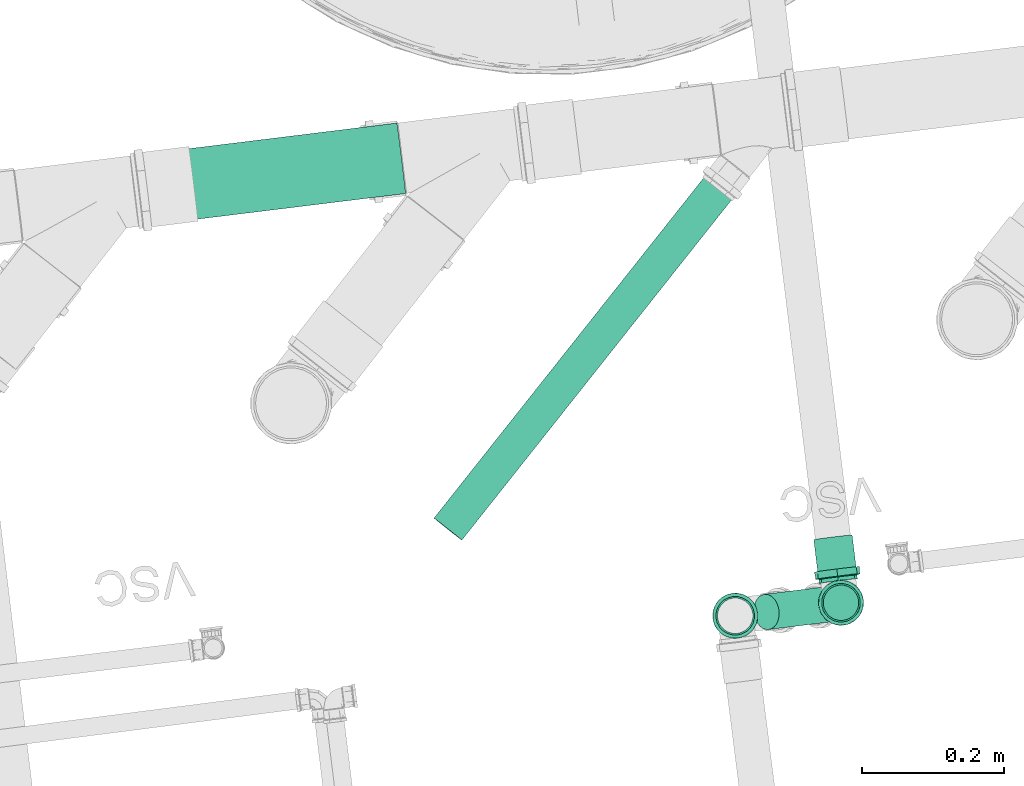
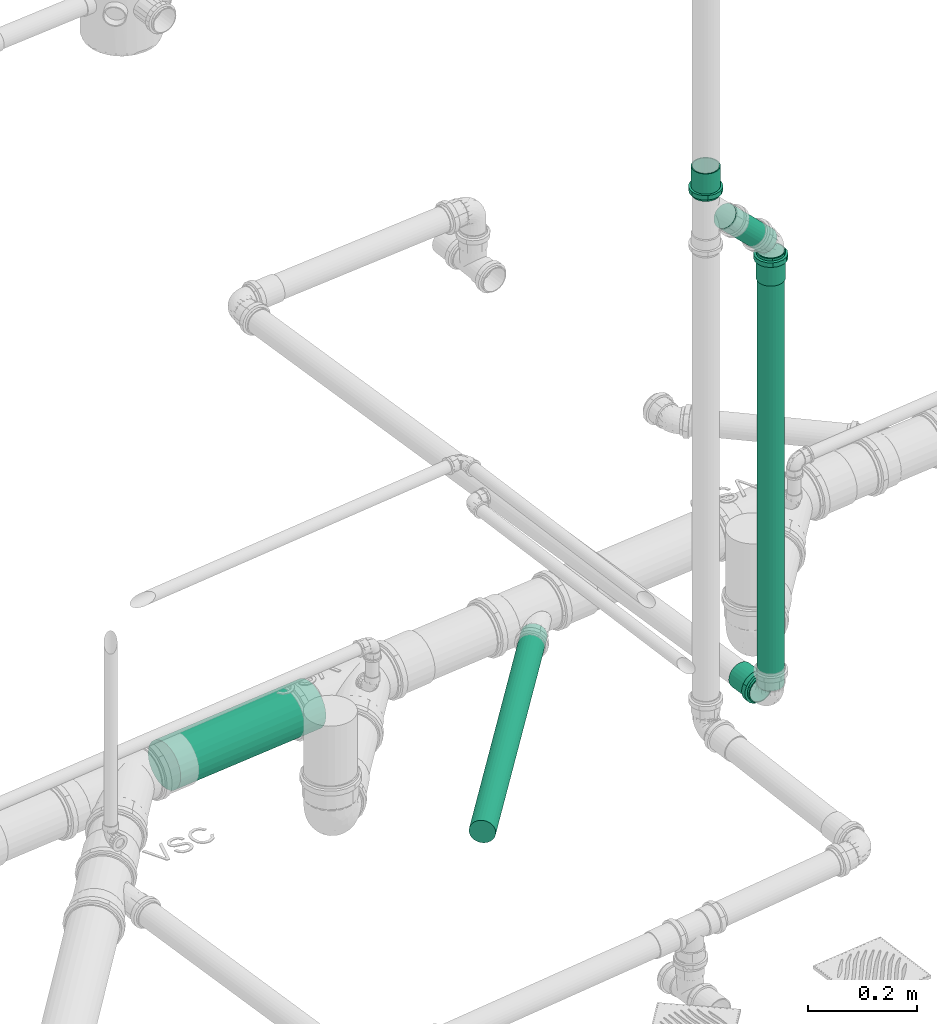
# One storey, part 21 of 97: 4 flow segments, 3 flow fittings.
"""IFC2X3 building model written with IfcOpenShell, lengths in centimetres."""

from ifc_helpers import new_model, entity, si_unit, converted_unit, derived_unit, direction, frame, frame_2d, origin, origin_2d_with_axis, place, context, subcontext, project, spatial, circle, extrude, faceted_brep, source, transform, mapped, material, type_object, type_shapes, element, save


model = new_model("IFC2X3")

# Units and contexts
model_context = context("Model", 3, precision=0.001, world=origin(), true_north=direction((6.12303176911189e-17, 1.0)))
body_context = subcontext(model_context, "Body", "Model", "MODEL_VIEW")
ifc_project = project(units=[si_unit("LENGTHUNIT", "METRE", prefix="CENTI"), si_unit("AREAUNIT", "SQUARE_METRE"), si_unit("VOLUMEUNIT", "CUBIC_METRE"), converted_unit("PLANEANGLEUNIT", "DEGREE", entity("IfcRatioMeasure", 0.0174532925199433), si_unit("PLANEANGLEUNIT", "RADIAN"), dimensions=[0, 0, 0, 0, 0, 0, 0]), si_unit("MASSUNIT", "GRAM", prefix="KILO"), derived_unit("MASSDENSITYUNIT", [(si_unit("MASSUNIT", "GRAM", prefix="KILO"), 1), (si_unit("LENGTHUNIT", "METRE"), -3)]), derived_unit("MOMENTOFINERTIAUNIT", [(si_unit("LENGTHUNIT", "METRE"), 4)]), si_unit("TIMEUNIT", "SECOND"), si_unit("FREQUENCYUNIT", "HERTZ"), si_unit("THERMODYNAMICTEMPERATUREUNIT", "DEGREE_CELSIUS"), derived_unit("THERMALTRANSMITTANCEUNIT", [(si_unit("MASSUNIT", "GRAM", prefix="KILO"), 1), (si_unit("THERMODYNAMICTEMPERATUREUNIT", "KELVIN"), -1), (si_unit("TIMEUNIT", "SECOND"), -3)]), derived_unit("VOLUMETRICFLOWRATEUNIT", [(si_unit("LENGTHUNIT", "METRE"), 3), (si_unit("TIMEUNIT", "SECOND"), -1)]), si_unit("ELECTRICCURRENTUNIT", "AMPERE"), si_unit("ELECTRICVOLTAGEUNIT", "VOLT"), si_unit("POWERUNIT", "WATT"), si_unit("FORCEUNIT", "NEWTON", prefix="KILO"), si_unit("ILLUMINANCEUNIT", "LUX"), si_unit("LUMINOUSFLUXUNIT", "LUMEN"), si_unit("LUMINOUSINTENSITYUNIT", "CANDELA"), derived_unit("USERDEFINED", [(si_unit("MASSUNIT", "GRAM", prefix="KILO"), -1), (si_unit("LENGTHUNIT", "METRE"), -2), (si_unit("TIMEUNIT", "SECOND"), 3), (si_unit("LUMINOUSFLUXUNIT", "LUMEN"), 1)]), derived_unit("LINEARVELOCITYUNIT", [(si_unit("LENGTHUNIT", "METRE"), 1), (si_unit("TIMEUNIT", "SECOND"), -1)]), si_unit("PRESSUREUNIT", "PASCAL"), derived_unit("USERDEFINED", [(si_unit("LENGTHUNIT", "METRE"), -2), (si_unit("MASSUNIT", "GRAM", prefix="KILO"), 1), (si_unit("TIMEUNIT", "SECOND"), -2)]), derived_unit("LINEARFORCEUNIT", [(si_unit("MASSUNIT", "GRAM", prefix="KILO"), 1), (si_unit("LENGTHUNIT", "METRE"), 1), (si_unit("TIMEUNIT", "SECOND"), -2), (si_unit("LENGTHUNIT", "METRE"), -1)]), derived_unit("PLANARFORCEUNIT", [(si_unit("MASSUNIT", "GRAM", prefix="KILO"), 1), (si_unit("LENGTHUNIT", "METRE"), 1), (si_unit("TIMEUNIT", "SECOND"), -2), (si_unit("LENGTHUNIT", "METRE"), -2)])], contexts=[model_context])

# Site, building, storey
site_placement = place(None, origin())
site = spatial("IfcSite", under=ifc_project, at=site_placement, Name="Default", CompositionType="ELEMENT")
building_placement = place(site_placement, origin())
building = spatial("IfcBuilding", under=site, at=building_placement, Name="HIDROSSANITÁRIO", CompositionType="ELEMENT")
storey_placement = place(building_placement, frame((0.0, 0.0, -260.0)))
storey = spatial("IfcBuildingStorey", under=building, at=storey_placement, Name="TÉRREO-HID", CompositionType="ELEMENT", Elevation=-260.0)

# Flow segments
pipe_segment_type = type_object("IfcPipeSegmentType", Name="Tipos de tubos:Tubo - Esgoto - Série Normal", PredefinedType="NOTDEFINED")
flow_segment_1_placement = place(storey_placement, origin())
element("IfcFlowSegment", 1, at=flow_segment_1_placement, inside=storey, type_object=pipe_segment_type, Name="Tipos de tubos:Tubo - Esgoto - Série Normal", ObjectType="Tipos de tubos:Tubo - Esgoto - Série Normal", context=body_context, shape_type="SweptSolid", body=[
    extrude(circle(Radius=5.0, at=origin_2d_with_axis()), frame((-1676.23149618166, 2964.60494548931, -34.7716445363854), z_axis=(-0.992461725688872, -0.122146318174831, 0.00999999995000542), x_axis=(0.122152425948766, -0.992511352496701, 0.0)), (0.0, 0.0, 1.0), 33.5116572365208),
])
flow_segment_2_placement = place(storey_placement, origin())
element("IfcFlowSegment", 2, at=flow_segment_2_placement, inside=storey, type_object=pipe_segment_type, Name="Tipos de tubos:Tubo - Esgoto - Série Normal", ObjectType="Tipos de tubos:Tubo - Esgoto - Série Normal", context=body_context, shape_type="SweptSolid", body=[
    extrude(circle(Radius=2.5, at=frame_2d((4.38792542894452e-13, -2.52427760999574e-15), x_axis=(1.0, 0.0))), frame((-1629.24835275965, 2963.39716830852, -34.9552157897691), z_axis=(-0.621166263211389, -0.783581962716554, 0.012319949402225), x_axis=(0.783641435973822, -0.621213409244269, 0.0)), (0.0, 0.0, 1.0), 65.0630446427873),
])
flow_segment_3_placement = place(storey_placement, origin())
element("IfcFlowSegment", 3, at=flow_segment_3_placement, inside=storey, type_object=pipe_segment_type, Name="Tipos de tubos:Tubo - Esgoto - Série Normal", ObjectType="Tipos de tubos:Tubo - Esgoto - Série Normal", context=body_context, shape_type="SweptSolid", body=[
    extrude(circle(Radius=2.5, at=frame_2d((1.87847503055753e-31, -1.91425672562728e-14), x_axis=(1.0, 0.0))), frame((-1624.8208189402, 2900.76838637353, 95.5593694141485), z_axis=(0.701811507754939, 0.0863748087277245, -0.707106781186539), x_axis=(0.122152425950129, -0.992511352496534, 0.0)), (0.0, 0.0, 1.0), 13.336248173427),
])
flow_segment_4_placement = place(storey_placement, origin())
element("IfcFlowSegment", 4, at=flow_segment_4_placement, inside=storey, type_object=pipe_segment_type, Name="Tipos de tubos:Tubo - Esgoto - Série Normal", ObjectType="Tipos de tubos:Tubo - Esgoto - Série Normal", context=body_context, shape_type="SweptSolid", body=[
    extrude(circle(Radius=2.5, at=origin_2d_with_axis()), frame((-1614.34052492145, 2902.05823896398, -13.9318647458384), z_axis=(0.0, 0.0, 1.0), x_axis=(-1.0, 0.0, 0.0)), (0.0, 0.0, 1.0), 97.3349094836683),
])

# Flow fittings
ifc_material = material(Name="PVC Branco")
pipe_fitting_type = type_object("IfcPipeFittingType", Name="Luva Simples para Conexão - Serie Normal - Esgoto - MEP - Tigre:Standard", PredefinedType="NOTDEFINED", material=ifc_material)
shared_shape = source(origin(), body_context, "Body", "Brep", [
    faceted_brep([(1.65999999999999, 1.59, -2.75396078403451), (1.65999999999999, 2.24859956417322, -2.24859956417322), (1.65999999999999, 1.35999999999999, -2.35558909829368), (1.65999999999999, 0.703987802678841, -2.62731824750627), (1.65999999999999, 0.82304456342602, -3.07164412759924), (1.65999999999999, 1.9233304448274, -1.92333044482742), (1.65999999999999, 2.75396078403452, -1.59), (1.65999999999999, 2.35558909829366, -1.36000000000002), (1.65999999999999, 2.62731824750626, -0.703987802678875), (1.65999999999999, 3.07164412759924, -0.823044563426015), (1.65999999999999, 2.72, 0.0), (1.65999999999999, 3.18, 0.0), (1.65999999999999, 2.62731824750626, 0.703987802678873), (1.65999999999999, 3.07164412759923, 0.823044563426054), (1.65999999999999, 2.35558909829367, 1.36000000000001), (1.65999999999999, 2.7539607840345, 1.59000000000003), (1.65999999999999, 1.9233304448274, 1.92333044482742), (1.65999999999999, 2.24859956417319, 2.24859956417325), (1.65999999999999, 1.35999999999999, 2.35558909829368), (1.65999999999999, 1.58999999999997, 2.75396078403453), (1.65999999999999, 0.703987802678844, 2.62731824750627), (1.65999999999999, 0.823044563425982, 3.07164412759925), (1.65999999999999, 0.0, 2.72), (1.65999999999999, 0.0, 3.18), (1.65999999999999, -0.703987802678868, 2.62731824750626), (1.65999999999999, -0.823044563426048, 3.07164412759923), (1.65999999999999, -1.36000000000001, 2.35558909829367), (1.65999999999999, -1.59000000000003, 2.7539607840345), (1.65999999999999, -1.92333044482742, 1.9233304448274), (1.65999999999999, -2.24859956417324, 2.2485995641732), (1.65999999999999, -2.35558909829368, 1.35999999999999), (1.65999999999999, -2.75396078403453, 1.58999999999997), (1.65999999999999, -3.07164412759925, 0.823044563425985), (1.65999999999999, -2.62731824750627, 0.703987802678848), (1.65999999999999, -3.18, 0.0), (1.65999999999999, -2.72, 0.0), (1.65999999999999, -3.07164412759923, -0.823044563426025), (1.65999999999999, -2.62731824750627, -0.703987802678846), (1.65999999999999, -2.75396078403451, -1.59000000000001), (1.65999999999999, -2.35558909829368, -1.35999999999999), (1.65999999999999, -2.24859956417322, -2.24859956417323), (1.65999999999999, -1.92333044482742, -1.9233304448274), (1.65999999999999, -1.58999999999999, -2.75396078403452), (1.65999999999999, -1.36000000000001, -2.35558909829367), (1.65999999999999, -0.823044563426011, -3.07164412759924), (1.65999999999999, -0.70398780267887, -2.62731824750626), (1.65999999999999, 0.0, -3.18), (1.65999999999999, 0.0, -2.72), (0.650000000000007, -1.07081089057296, 2.94292196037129), (0.650000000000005, -2.43590738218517, 2.04420038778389), (0.650000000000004, -2.7120498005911, 1.56595386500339), (0.650000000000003, -2.98819221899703, 1.08770734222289), (0.650000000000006, -1.58976972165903, 2.75409372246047), (0.650000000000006, -2.0128385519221, 2.39914705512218), (0.650000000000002, -3.08409610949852, 0.54385367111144), (0.650000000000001, -3.18, 0.0), (0.650000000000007, -0.551852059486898, 3.13175019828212), (0.650000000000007, 0.552637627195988, 3.13161167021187), (0.650000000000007, 0.000392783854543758, 3.13168093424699), (0.650000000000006, 2.01344030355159, 2.39864206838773), (0.650000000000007, 1.07154907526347, 2.94265325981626), (0.650000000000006, 1.59046052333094, 2.75369484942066), (0.650000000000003, 2.98846497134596, 1.08695773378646), (0.650000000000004, 2.7124425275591, 1.56527351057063), (0.650000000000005, 2.43642008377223, 2.0435892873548), (0.650000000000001, 3.18, 0.0), (0.649999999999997, 2.43642008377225, -2.04358928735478), (0.649999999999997, 2.71244252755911, -1.5652735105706), (0.649999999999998, 2.98846497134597, -1.08695773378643), (0.649999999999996, 1.59046052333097, -2.75369484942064), (0.649999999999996, 2.01344030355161, -2.39864206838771), (0.649999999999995, 1.07154907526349, -2.94265325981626), (0.649999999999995, 0.552637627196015, -3.13161167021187), (0.649999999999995, -0.551852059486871, -3.13175019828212), (0.649999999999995, 0.000392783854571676, -3.13168093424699), (0.649999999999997, -2.01283855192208, -2.3991470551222), (0.649999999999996, -1.58976972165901, -2.75409372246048), (0.649999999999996, -1.07081089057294, -2.9429219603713), (0.649999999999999, -2.98819221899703, -1.08770734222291), (0.649999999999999, -2.71204980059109, -1.56595386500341), (0.649999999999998, -2.43590738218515, -2.04420038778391), (0.65, -3.08409610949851, -0.543853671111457), (0.64999999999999, -3.06961738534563, -0.625959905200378), (6.20000000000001, 1.36, -2.35558909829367), (6.20000000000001, 1.92333044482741, -1.92333044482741), (6.20000000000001, 1.24999999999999, -2.1650635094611), (6.20000000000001, 0.647047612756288, -2.41481456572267), (6.20000000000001, 0.70398780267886, -2.62731824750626), (6.20000000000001, 1.76776695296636, -1.76776695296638), (6.20000000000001, 2.35558909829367, -1.36), (6.20000000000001, 2.16506350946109, -1.25000000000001), (6.20000000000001, 2.41481456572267, -0.647047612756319), (6.20000000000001, 2.62731824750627, -0.703987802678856), (6.20000000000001, 2.5, 0.0), (6.20000000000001, 2.72, 0.0), (6.20000000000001, 2.41481456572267, 0.647047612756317), (6.20000000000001, 2.62731824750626, 0.703987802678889), (6.20000000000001, 2.16506350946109, 1.25000000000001), (6.20000000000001, 2.35558909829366, 1.36000000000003), (6.20000000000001, 1.76776695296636, 1.76776695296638), (6.20000000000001, 1.92333044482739, 1.92333044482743), (6.20000000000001, 1.24999999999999, 2.1650635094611), (6.20000000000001, 1.35999999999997, 2.35558909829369), (6.20000000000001, 0.64704761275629, 2.41481456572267), (6.20000000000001, 0.703987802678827, 2.62731824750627), (6.20000000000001, 0.0, 2.5), (6.20000000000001, 0.0, 2.72), (6.20000000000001, -0.647047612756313, 2.41481456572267), (6.20000000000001, -0.703987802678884, 2.62731824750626), (6.20000000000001, -1.25000000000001, 2.16506350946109), (6.20000000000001, -1.36000000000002, 2.35558909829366), (6.20000000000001, -1.76776695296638, 1.76776695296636), (6.20000000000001, -1.92333044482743, 1.92333044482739), (6.20000000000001, -2.1650635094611, 1.24999999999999), (6.20000000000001, -2.35558909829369, 1.35999999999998), (6.20000000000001, -2.62731824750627, 0.703987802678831), (6.20000000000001, -2.41481456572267, 0.647047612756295), (6.20000000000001, -2.72, 0.0), (6.20000000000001, -2.5, 0.0), (6.20000000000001, -2.62731824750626, -0.703987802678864), (6.20000000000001, -2.41481456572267, -0.647047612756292), (6.20000000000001, -2.35558909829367, -1.36000000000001), (6.20000000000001, -2.1650635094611, -1.24999999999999), (6.20000000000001, -1.9233304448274, -1.92333044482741), (6.20000000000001, -1.76776695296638, -1.76776695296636), (6.20000000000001, -1.36, -2.35558909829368), (6.20000000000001, -1.25000000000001, -2.16506350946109), (6.20000000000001, -0.703987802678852, -2.62731824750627), (6.20000000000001, -0.647047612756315, -2.41481456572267), (6.20000000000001, 0.0, -2.72), (6.20000000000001, 0.0, -2.5), (0.0, 1.24999999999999, -2.1650635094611), (0.0, 1.92333044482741, -1.92333044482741), (0.0, 1.36, -2.35558909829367), (0.0, 0.647047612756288, -2.41481456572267), (0.0, 1.76776695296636, -1.76776695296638), (0.0, 2.35558909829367, -1.36), (0.0, 2.16506350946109, -1.25000000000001), (0.0, 2.41481456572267, -0.647047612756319), (0.0, 2.62731824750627, -0.703987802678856), (0.0, 2.5, 0.0), (0.0, 2.72, 0.0), (0.0, 2.41481456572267, 0.647047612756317), (0.0, 2.62731824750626, 0.703987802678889), (0.0, 2.16506350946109, 1.25000000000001), (0.0, 2.35558909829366, 1.36000000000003), (0.0, 1.76776695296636, 1.76776695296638), (0.0, 1.92333044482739, 1.92333044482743), (0.0, 1.24999999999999, 2.1650635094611), (0.0, 1.35999999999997, 2.35558909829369), (0.0, 0.64704761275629, 2.41481456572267), (0.0, 0.703987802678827, 2.62731824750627), (0.0, 0.0, 2.5), (0.0, 0.0, 2.72), (0.0, -0.647047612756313, 2.41481456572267), (0.0, -0.703987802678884, 2.62731824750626), (0.0, -1.25000000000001, 2.16506350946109), (0.0, -1.36000000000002, 2.35558909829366), (0.0, -1.76776695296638, 1.76776695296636), (0.0, -1.92333044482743, 1.92333044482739), (0.0, -2.1650635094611, 1.24999999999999), (0.0, -2.35558909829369, 1.35999999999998), (0.0, -2.62731824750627, 0.703987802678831), (0.0, -2.41481456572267, 0.647047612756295), (0.0, -2.72, 0.0), (0.0, -2.5, 0.0), (0.0, -2.62731824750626, -0.703987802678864), (0.0, -2.41481456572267, -0.647047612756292), (0.0, -2.35558909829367, -1.36000000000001), (0.0, -2.1650635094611, -1.24999999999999), (0.0, -1.9233304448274, -1.92333044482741), (0.0, -1.76776695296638, -1.76776695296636), (0.0, -1.36, -2.35558909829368), (0.0, -1.25000000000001, -2.16506350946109), (0.0, -0.703987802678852, -2.62731824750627), (0.0, -0.647047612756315, -2.41481456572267), (0.0, 0.0, -2.72), (0.0, 0.0, -2.5), (0.0, 0.70398780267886, -2.62731824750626), (0.53, -2.63796899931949, 0.465183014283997), (0.529999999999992, -2.62558467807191, 0.535412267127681), (0.530000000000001, -2.55593799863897, 0.930366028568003), (0.530000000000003, -2.08354342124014, 1.74849844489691), (0.530000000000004, -1.72167322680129, 2.05210062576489), (0.530000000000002, -2.31974070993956, 1.33943223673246), (0.530000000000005, -0.472024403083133, 2.67872972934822), (0.530000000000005, -0.915913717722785, 2.51721626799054), (0.53, -2.72, 0.0), (0.530000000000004, -1.35980303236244, 2.35570280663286), (0.530000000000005, 0.916545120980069, 2.51698643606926), (0.530000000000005, 1.36039390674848, 2.35536163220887), (0.530000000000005, 0.47269633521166, 2.67861123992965), (0.530000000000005, 1.72218793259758, 2.05166868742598), (0.530000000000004, 2.08398195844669, 1.7479757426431), (0.530000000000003, 2.5561712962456, 0.929724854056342), (0.53, 2.72, 0.0), (0.530000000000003, 2.32007662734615, 1.33885029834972), (0.530000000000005, 0.000335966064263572, 2.67867048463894), (0.529999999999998, 2.55617129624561, -0.929724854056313), (0.529999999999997, 2.08398195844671, -1.74797574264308), (0.529999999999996, 1.7221879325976, -2.05166868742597), (0.529999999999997, 2.32007662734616, -1.3388502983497), (0.529999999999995, 0.472696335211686, -2.67861123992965), (0.529999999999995, 0.916545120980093, -2.51698643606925), (0.529999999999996, 1.3603939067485, -2.35536163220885), (0.529999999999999, -2.63796899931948, -0.465183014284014), (0.529999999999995, -0.915913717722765, -2.51721626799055), (0.529999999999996, -1.35980303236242, -2.35570280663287), (0.529999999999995, -0.47202440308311, -2.67872972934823), (0.529999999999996, -1.72167322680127, -2.0521006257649), (0.529999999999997, -2.08354342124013, -1.74849844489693), (0.529999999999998, -2.55593799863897, -0.930366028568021), (0.529999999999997, -2.31974070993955, -1.33943223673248), (0.529999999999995, 0.000335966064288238, -2.67867048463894), (3.9, -2.5, 0.0), (3.9, 2.5, 0.0)], [[[0, 1, 2]], [[0, 2, 3]], [[3, 4, 0]], [[2, 1, 5]], [[6, 5, 1]], [[7, 5, 6]], [[8, 7, 6]], [[8, 6, 9]], [[8, 9, 10]], [[10, 9, 11]], [[12, 10, 11]], [[12, 11, 13]], [[14, 12, 13]], [[14, 13, 15]], [[16, 14, 15]], [[15, 17, 16]], [[17, 18, 16]], [[17, 19, 18]], [[18, 19, 20]], [[21, 20, 19]], [[20, 21, 22]], [[22, 21, 23]], [[22, 23, 24]], [[24, 23, 25]], [[24, 25, 26]], [[27, 26, 25]], [[27, 28, 26]], [[28, 27, 29]], [[30, 28, 29]], [[31, 30, 29]], [[32, 30, 31]], [[33, 30, 32]], [[33, 32, 34]], [[35, 33, 34]], [[36, 35, 34]], [[36, 37, 35]], [[37, 36, 38]], [[39, 37, 38]], [[39, 38, 40]], [[39, 40, 41]], [[40, 42, 41]], [[41, 42, 43]], [[43, 42, 44]], [[44, 45, 43]], [[46, 45, 44]], [[4, 47, 46]], [[46, 47, 45]], [[4, 3, 47]], [[48, 27, 25]], [[31, 29, 49]], [[31, 49, 50, 51]], [[52, 53, 27]], [[32, 51, 54]], [[54, 55, 34]], [[54, 34, 32]], [[25, 56, 48]], [[49, 29, 53]], [[23, 57, 58, 56]], [[59, 19, 17]], [[27, 53, 29]], [[48, 52, 27]], [[31, 51, 32]], [[57, 23, 21]], [[60, 19, 61]], [[15, 62, 63, 64]], [[19, 60, 21]], [[15, 13, 62]], [[17, 64, 59]], [[57, 21, 60]], [[23, 56, 25]], [[15, 64, 17]], [[13, 65, 62]], [[13, 11, 65]], [[59, 61, 19]], [[65, 11, 9]], [[6, 1, 66]], [[6, 66, 67, 68]], [[69, 70, 0]], [[68, 65, 9]], [[71, 69, 0]], [[71, 0, 4]], [[4, 72, 71]], [[66, 1, 70]], [[46, 73, 74, 72]], [[75, 76, 42]], [[0, 70, 1]], [[75, 42, 40]], [[6, 68, 9]], [[73, 46, 44]], [[77, 42, 76]], [[38, 78, 79, 80]], [[42, 77, 44]], [[38, 36, 78]], [[40, 80, 75]], [[73, 44, 77]], [[46, 72, 4]], [[38, 80, 40]], [[36, 81, 82, 78]], [[55, 81, 34]], [[34, 81, 36]], [[83, 84, 85]], [[83, 85, 86]], [[86, 87, 83]], [[85, 84, 88]], [[89, 88, 84]], [[88, 89, 90]], [[90, 89, 91]], [[92, 91, 89]], [[92, 93, 91]], [[93, 92, 94]], [[95, 93, 94]], [[94, 96, 95]], [[95, 96, 97]], [[98, 97, 96]], [[97, 98, 99]], [[99, 98, 100]], [[101, 99, 100]], [[100, 102, 101]], [[101, 102, 103]], [[104, 103, 102]], [[103, 104, 105]], [[105, 104, 106]], [[105, 106, 107]], [[107, 106, 108]], [[107, 108, 109]], [[110, 109, 108]], [[110, 111, 109]], [[111, 110, 112]], [[112, 113, 111]], [[114, 113, 112]], [[113, 114, 115]], [[115, 116, 113]], [[117, 116, 115]], [[117, 118, 116]], [[119, 118, 117]], [[119, 120, 118]], [[120, 119, 121]], [[121, 122, 120]], [[122, 121, 123]], [[122, 123, 124]], [[123, 125, 124]], [[124, 125, 126]], [[126, 125, 127]], [[127, 128, 126]], [[129, 128, 127]], [[87, 130, 129]], [[129, 130, 128]], [[87, 86, 130]], [[131, 132, 133]], [[134, 131, 133]], [[135, 132, 131]], [[132, 135, 136]], [[137, 136, 135]], [[138, 136, 137]], [[136, 138, 139]], [[138, 140, 139]], [[141, 139, 140]], [[141, 140, 142]], [[142, 143, 141]], [[144, 143, 142]], [[143, 144, 145]], [[146, 145, 144]], [[147, 145, 146]], [[147, 146, 148]], [[148, 149, 147]], [[150, 149, 148]], [[149, 150, 151]], [[152, 151, 150]], [[153, 151, 152]], [[154, 153, 152]], [[155, 153, 154]], [[156, 155, 154]], [[155, 156, 157]], [[156, 158, 157]], [[159, 157, 158]], [[158, 160, 159]], [[159, 160, 161]], [[162, 161, 160]], [[160, 163, 162]], [[162, 163, 164]], [[163, 165, 164]], [[164, 165, 166]], [[165, 167, 166]], [[168, 166, 167]], [[167, 169, 168]], [[170, 168, 169]], [[171, 170, 169]], [[171, 172, 170]], [[173, 172, 171]], [[174, 172, 173]], [[173, 175, 174]], [[174, 175, 176]], [[175, 177, 176]], [[177, 134, 178]], [[176, 177, 178]], [[133, 178, 134]], [[162, 179, 180, 181]], [[159, 182, 183]], [[182, 161, 181, 184]], [[185, 155, 186]], [[161, 162, 181]], [[187, 179, 164]], [[183, 188, 157]], [[183, 157, 159]], [[161, 182, 159]], [[189, 190, 149]], [[189, 149, 151]], [[157, 188, 186]], [[157, 186, 155]], [[153, 155, 185]], [[164, 179, 162]], [[151, 191, 189]], [[147, 192, 193]], [[143, 194, 195]], [[194, 145, 193, 196]], [[143, 195, 141]], [[10, 12, 96, 94]], [[149, 192, 147]], [[153, 185, 197, 191]], [[153, 191, 151]], [[145, 147, 193]], [[190, 192, 149]], [[145, 194, 143]], [[139, 195, 198]], [[132, 199, 200]], [[199, 136, 198, 201]], [[202, 178, 203]], [[136, 139, 198]], [[139, 141, 195]], [[92, 8, 10, 94]], [[133, 203, 178]], [[200, 204, 133]], [[136, 199, 132]], [[205, 164, 166]], [[206, 207, 172]], [[133, 204, 203]], [[206, 172, 174]], [[176, 178, 202]], [[200, 133, 132]], [[174, 208, 206]], [[170, 209, 210]], [[166, 211, 205]], [[211, 168, 210, 212]], [[168, 211, 166]], [[172, 209, 170]], [[176, 202, 213, 208]], [[176, 208, 174]], [[168, 170, 210]], [[207, 209, 172]], [[205, 187, 164]], [[116, 118, 214, 165, 163]], [[156, 109, 111, 158]], [[111, 113, 160, 158]], [[113, 116, 163, 160]], [[107, 109, 156, 154]], [[154, 152, 105, 107]], [[103, 105, 152, 150]], [[103, 150, 148, 101]], [[142, 95, 97, 144]], [[97, 99, 146, 144]], [[99, 101, 148, 146]], [[93, 95, 142, 140, 215]], [[215, 140, 138, 91, 93]], [[135, 131, 85, 88]], [[90, 91, 138, 137]], [[90, 137, 135, 88]], [[86, 85, 131, 134]], [[134, 177, 130, 86]], [[128, 130, 177, 175]], [[128, 175, 173, 126]], [[167, 120, 122, 169]], [[122, 124, 171, 169]], [[124, 126, 173, 171]], [[118, 120, 167, 165, 214]], [[211, 78, 82, 81, 55, 187, 205]], [[79, 78, 211, 212, 210, 80]], [[75, 80, 210, 209, 207, 76]], [[207, 206, 208, 73, 77, 76]], [[213, 202, 72, 74, 73, 208]], [[203, 204, 69, 71, 72, 202]], [[198, 195, 65, 68]], [[199, 201, 198, 68, 67, 66]], [[204, 200, 199, 66, 70, 69]], [[195, 194, 62, 65]], [[197, 185, 56, 58, 57, 191]], [[63, 62, 194, 196, 193, 64]], [[57, 60, 61, 190, 189, 191]], [[193, 192, 190, 61, 59, 64]], [[48, 56, 185, 186, 188, 52]], [[187, 55, 54, 51, 181, 180, 179]], [[182, 184, 181, 51, 50, 49]], [[188, 183, 182, 49, 53, 52]], [[30, 33, 115, 114]], [[117, 115, 33, 35]], [[26, 28, 112, 110]], [[114, 112, 28, 30]], [[24, 26, 110, 108]], [[108, 106, 22, 24]], [[18, 20, 104, 102]], [[100, 16, 18, 102]], [[12, 14, 98, 96]], [[100, 98, 14, 16]], [[104, 20, 22, 106]], [[89, 7, 8, 92]], [[83, 87, 3, 2]], [[7, 89, 84, 5]], [[83, 2, 5, 84]], [[87, 129, 47, 3]], [[43, 45, 127, 125]], [[123, 41, 43, 125]], [[37, 39, 121, 119]], [[123, 121, 39, 41]], [[35, 37, 119, 117]], [[127, 45, 47, 129]]]),
])
type_shapes(pipe_fitting_type, [shared_shape])
for number, where, z_axis, x_axis, name in (
    (5, (-1629.2281952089, 2900.22595257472, 102.55), (-0.122152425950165, 0.99251135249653, 0.0), (0.0, 0.0, 1.0), "Luva Simples para Conexão - Serie Normal - Esgoto - MEP - Tigre:Standard"),
    (6, (-1614.34052492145, 2902.05823896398, 83.40304473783), (-0.122152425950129, 0.992511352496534, 0.0), (0.0, 0.0, -1.0), "Luva Simples para Conexão - Serie Normal - Esgoto - MEP - Tigre:Standard"),
    (7, (-1614.71522901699, 2905.10277996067, -17.0618134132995), (-0.992511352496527, -0.122152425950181, 0.0), (-0.122127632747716, 0.992309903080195, -0.0201468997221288), "Luva Simples para Conexão - Serie Normal - Esgoto - MEP - Tigre:Standard"),
):
    element("IfcFlowFitting", number, at=place(storey_placement, frame(where, z_axis=z_axis, x_axis=x_axis)), inside=storey, type_object=pipe_fitting_type, material=ifc_material, Name=name, ObjectType="Luva Simples para Conexão - Serie Normal - Esgoto - MEP - Tigre:Standard", context=body_context, shape_type="MappedRepresentation", body=[
        mapped(shared_shape, transform((0.0, 0.0, 0.0), scale=1.0)),
    ])

save(model, "model.ifc")
